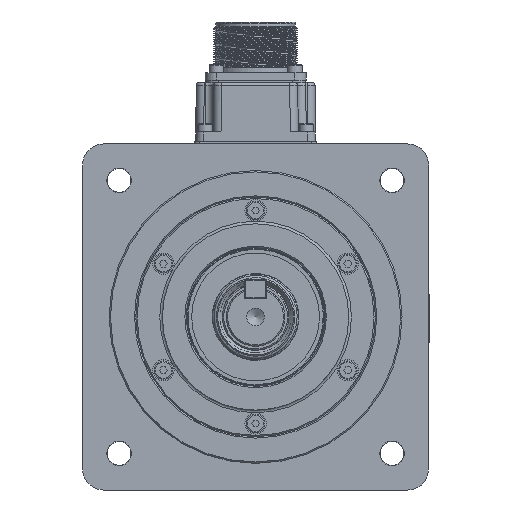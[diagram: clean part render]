
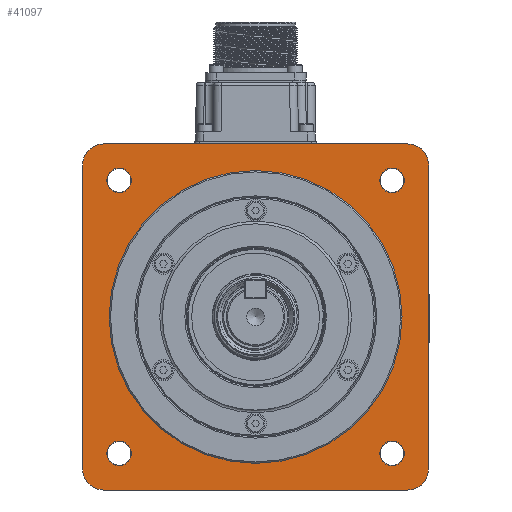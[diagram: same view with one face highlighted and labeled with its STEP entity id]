
A CAD part, front view. The second image highlights one B-rep face of the part: STEP entity #41097.
In plain terms, the highlighted planar face has unit normal (0, -1, 0).
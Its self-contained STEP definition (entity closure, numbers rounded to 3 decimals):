
#1078=LINE('',#58800,#4213);
#1149=LINE('',#61696,#4284);
#1154=LINE('',#61706,#4289);
#1159=LINE('',#61716,#4294);
#4213=VECTOR('',#47557,1000.);
#4284=VECTOR('',#48262,1000.);
#4289=VECTOR('',#48273,1000.);
#4294=VECTOR('',#48284,1000.);
#8920=PLANE('',#44023);
#10863=ORIENTED_EDGE('',*,*,#21808,.F.);
#10864=ORIENTED_EDGE('',*,*,#21774,.F.);
#10865=ORIENTED_EDGE('',*,*,#21771,.T.);
#10866=ORIENTED_EDGE('',*,*,#21780,.F.);
#10867=ORIENTED_EDGE('',*,*,#21777,.T.);
#10868=ORIENTED_EDGE('',*,*,#21786,.F.);
#10869=ORIENTED_EDGE('',*,*,#21783,.T.);
#10870=ORIENTED_EDGE('',*,*,#21787,.F.);
#10871=ORIENTED_EDGE('',*,*,#21419,.T.);
#10872=ORIENTED_EDGE('',*,*,#21728,.F.);
#10873=ORIENTED_EDGE('',*,*,#21741,.F.);
#10874=ORIENTED_EDGE('',*,*,#21751,.F.);
#10875=ORIENTED_EDGE('',*,*,#21719,.F.);
#21419=EDGE_CURVE('',#27057,#27056,#1078,.T.);
#21719=EDGE_CURVE('',#27262,#27262,#31171,.F.);
#21728=EDGE_CURVE('',#27270,#27270,#31177,.F.);
#21741=EDGE_CURVE('',#27282,#27282,#31187,.F.);
#21751=EDGE_CURVE('',#27292,#27292,#31193,.F.);
#21771=EDGE_CURVE('',#27303,#27302,#1149,.T.);
#21774=EDGE_CURVE('',#27303,#27056,#31199,.F.);
#21777=EDGE_CURVE('',#27305,#27304,#1154,.T.);
#21780=EDGE_CURVE('',#27305,#27302,#31200,.F.);
#21783=EDGE_CURVE('',#27307,#27306,#1159,.T.);
#21786=EDGE_CURVE('',#27307,#27304,#31201,.F.);
#21787=EDGE_CURVE('',#27057,#27306,#31202,.F.);
#21808=EDGE_CURVE('',#27320,#27320,#31215,.T.);
#27056=VERTEX_POINT('',#58799);
#27057=VERTEX_POINT('',#58801);
#27262=VERTEX_POINT('',#61586);
#27270=VERTEX_POINT('',#61605);
#27282=VERTEX_POINT('',#61636);
#27292=VERTEX_POINT('',#61658);
#27302=VERTEX_POINT('',#61695);
#27303=VERTEX_POINT('',#61697);
#27304=VERTEX_POINT('',#61705);
#27305=VERTEX_POINT('',#61707);
#27306=VERTEX_POINT('',#61715);
#27307=VERTEX_POINT('',#61717);
#27320=VERTEX_POINT('',#61775);
#31171=CIRCLE('',#43936,4.6);
#31177=CIRCLE('',#43944,4.6);
#31187=CIRCLE('',#43960,4.6);
#31193=CIRCLE('',#43968,4.6);
#31199=CIRCLE('',#43983,8.);
#31200=CIRCLE('',#43986,8.);
#31201=CIRCLE('',#43989,8.);
#31202=CIRCLE('',#43991,8.);
#31215=CIRCLE('',#44022,55.);
#32646=EDGE_LOOP('',(#10863));
#32647=EDGE_LOOP('',(#10864,#10865,#10866,#10867,#10868,#10869,#10870,#10871));
#32648=EDGE_LOOP('',(#10872));
#32649=EDGE_LOOP('',(#10873));
#32650=EDGE_LOOP('',(#10874));
#32651=EDGE_LOOP('',(#10875));
#36084=FACE_BOUND('',#32646,.T.);
#36085=FACE_BOUND('',#32647,.T.);
#36086=FACE_BOUND('',#32648,.T.);
#36087=FACE_BOUND('',#32649,.T.);
#36088=FACE_BOUND('',#32650,.T.);
#36089=FACE_BOUND('',#32651,.T.);
#41097=ADVANCED_FACE('',(#36084,#36085,#36086,#36087,#36088,#36089),#8920,
 .F.);
#43936=AXIS2_PLACEMENT_3D('',#61585,#48146,#48147);
#43944=AXIS2_PLACEMENT_3D('',#61604,#48165,#48166);
#43960=AXIS2_PLACEMENT_3D('',#61635,#48200,#48201);
#43968=AXIS2_PLACEMENT_3D('',#61657,#48220,#48221);
#43983=AXIS2_PLACEMENT_3D('',#61701,#48267,#48268);
#43986=AXIS2_PLACEMENT_3D('',#61711,#48278,#48279);
#43989=AXIS2_PLACEMENT_3D('',#61721,#48289,#48290);
#43991=AXIS2_PLACEMENT_3D('',#61723,#48293,#48294);
#44022=AXIS2_PLACEMENT_3D('',#61774,#48363,#48364);
#44023=AXIS2_PLACEMENT_3D('',#61776,#48365,#48366);
#47557=DIRECTION('',(-1.,0.,0.));
#48146=DIRECTION('',(0.,1.,0.));
#48147=DIRECTION('',(0.,0.,1.));
#48165=DIRECTION('',(0.,1.,0.));
#48166=DIRECTION('',(0.,0.,1.));
#48200=DIRECTION('',(0.,1.,0.));
#48201=DIRECTION('',(0.,0.,1.));
#48220=DIRECTION('',(0.,1.,0.));
#48221=DIRECTION('',(0.,0.,1.));
#48262=DIRECTION('',(0.,0.,-1.));
#48267=DIRECTION('',(0.,-1.,0.));
#48268=DIRECTION('',(0.,0.,-1.));
#48273=DIRECTION('',(1.,0.,0.));
#48278=DIRECTION('',(0.,-1.,0.));
#48279=DIRECTION('',(0.,0.,-1.));
#48284=DIRECTION('',(0.,0.,1.));
#48289=DIRECTION('',(0.,-1.,0.));
#48290=DIRECTION('',(0.,0.,-1.));
#48293=DIRECTION('',(0.,-1.,0.));
#48294=DIRECTION('',(0.,0.,-1.));
#48363=DIRECTION('',(0.,-1.,0.));
#48364=DIRECTION('',(0.,0.,-1.));
#48365=DIRECTION('',(0.,1.,0.));
#48366=DIRECTION('',(0.,0.,1.));
#58799=CARTESIAN_POINT('',(-57.,1.2,65.));
#58800=CARTESIAN_POINT('',(65.,1.2,65.));
#58801=CARTESIAN_POINT('',(57.,1.2,65.));
#61585=CARTESIAN_POINT('',(51.265,1.2,51.265));
#61586=CARTESIAN_POINT('',(51.265,1.2,55.866));
#61604=CARTESIAN_POINT('',(-51.265,1.2,51.265));
#61605=CARTESIAN_POINT('',(-51.265,1.2,55.866));
#61635=CARTESIAN_POINT('',(-51.265,1.2,-51.265));
#61636=CARTESIAN_POINT('',(-51.265,1.2,-46.665));
#61657=CARTESIAN_POINT('',(51.265,1.2,-51.265));
#61658=CARTESIAN_POINT('',(51.265,1.2,-46.665));
#61695=CARTESIAN_POINT('',(-65.,1.2,-57.));
#61696=CARTESIAN_POINT('',(-65.,1.2,65.));
#61697=CARTESIAN_POINT('',(-65.,1.2,57.));
#61701=CARTESIAN_POINT('',(-57.,1.2,57.));
#61705=CARTESIAN_POINT('',(57.,1.2,-65.));
#61706=CARTESIAN_POINT('',(-65.,1.2,-65.));
#61707=CARTESIAN_POINT('',(-57.,1.2,-65.));
#61711=CARTESIAN_POINT('',(-57.,1.2,-57.));
#61715=CARTESIAN_POINT('',(65.,1.2,57.));
#61716=CARTESIAN_POINT('',(65.,1.2,-65.));
#61717=CARTESIAN_POINT('',(65.,1.2,-57.));
#61721=CARTESIAN_POINT('',(57.,1.2,-57.));
#61723=CARTESIAN_POINT('',(57.,1.2,57.));
#61774=CARTESIAN_POINT('',(0.,1.2,0.));
#61775=CARTESIAN_POINT('',(0.,1.2,-55.));
#61776=CARTESIAN_POINT('',(0.,1.2,55.));
